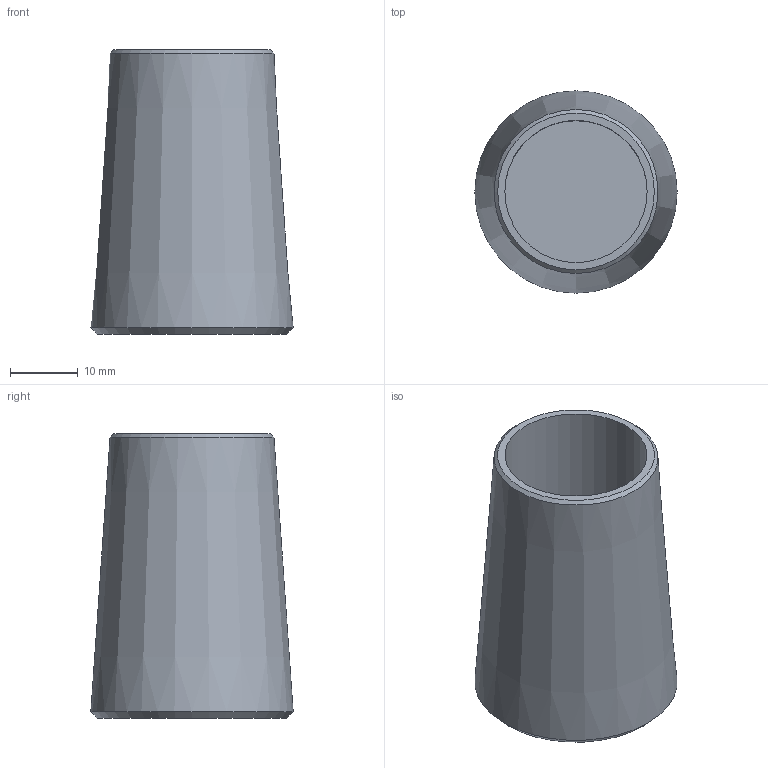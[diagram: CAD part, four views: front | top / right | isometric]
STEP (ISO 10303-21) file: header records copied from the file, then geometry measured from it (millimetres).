
FILE_DESCRIPTION(/* description */ (''),/* implementation_level */ '2;1');
FILE_NAME(/* name */ 'C:\Vault_WS\Designs\SB\01-PX\Verzinkt\ZSS\520 - Kontermutter\520-020-KMU.stp',/* time_stamp */ '2020-06-18T12:23:56+02:00',/* author */ ('schwarz'),/* organization */ (''),/* preprocessor_version */ 'ST-DEVELOPER v16.1',/* originating_system */ 'Autodesk Inventor 2016',/* authorisation */ '');
FILE_SCHEMA (('AUTOMOTIVE_DESIGN { 1 0 10303 214 3 1 1 }'));
Length unit declared in the file: millimetre
Products named in the file (1): Kontermutter 520 020 Kunde
Bounding box: 29.86 x 29.86 x 42 mm (x, y, z)
Volume: 13115.9 mm3; surface area: 6772.9 mm2
Topology: 1 solids, 1 shells, 7 faces, 10 edges, 6 vertices
Faces by surface type: cone 3, plane 3, cylinder 1
Full cylindrical faces by diameter (mm): 21 x1
Entity records: 158 total; most frequent: DIRECTION 28, CARTESIAN_POINT 20, AXIS2_PLACEMENT_3D 14, EDGE_LOOP 12, ORIENTED_EDGE 12, FACE_OUTER_BOUND 7, ADVANCED_FACE 7, CIRCLE 6
